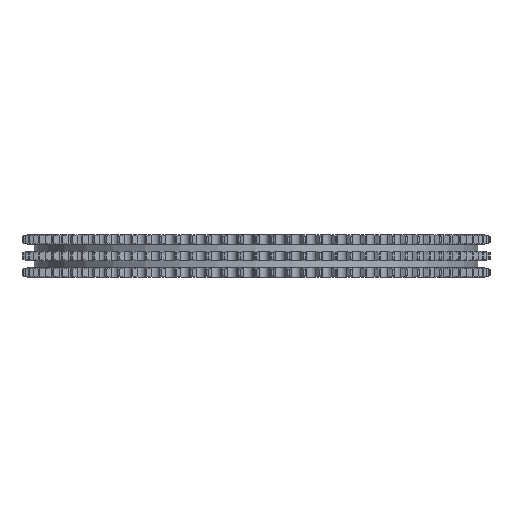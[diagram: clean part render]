
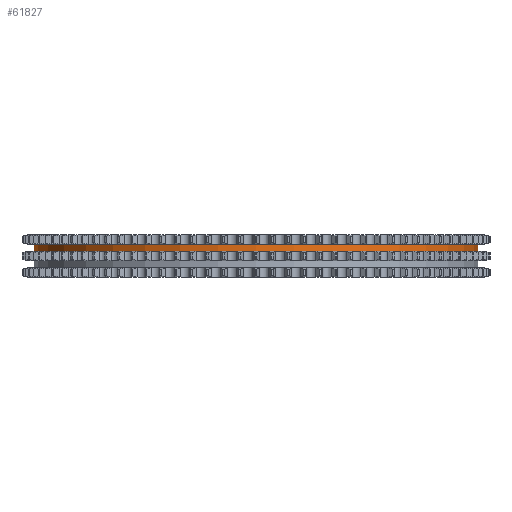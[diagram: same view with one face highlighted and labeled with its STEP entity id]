
A CAD part, left-side view. The second image highlights one B-rep face of the part: STEP entity #61827.
In plain terms, the highlighted cylindrical face has radius 261.927 mm (diameter 523.853 mm), a partial arc.
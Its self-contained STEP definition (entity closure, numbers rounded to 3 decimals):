
#10913=DIRECTION('',(0.,0.,-1.));
#10914=VECTOR('',#10913,8.25);
#10915=CARTESIAN_POINT('',(0.,261.927,13.8));
#10916=LINE('',#10915,#10914);
#10920=CARTESIAN_POINT('',(0.,0.,13.8));
#10921=DIRECTION('',(0.,0.,1.));
#10922=DIRECTION('',(0.,1.,0.));
#10923=AXIS2_PLACEMENT_3D('',#10920,#10921,#10922);
#10928=DIRECTION('',(0.,0.,-1.));
#10929=VECTOR('',#10928,8.25);
#10930=CARTESIAN_POINT('',(0.,-261.927,13.8));
#10931=LINE('',#10930,#10929);
#10935=CARTESIAN_POINT('',(0.,0.,5.55));
#10936=DIRECTION('',(0.,0.,1.));
#10937=DIRECTION('',(0.,1.,0.));
#10938=AXIS2_PLACEMENT_3D('',#10935,#10936,#10937);
#50402=CARTESIAN_POINT('',(0.,261.927,13.8));
#50403=CARTESIAN_POINT('',(0.,261.927,5.55));
#50404=VERTEX_POINT('',#50402);
#50405=VERTEX_POINT('',#50403);
#50406=CARTESIAN_POINT('',(0.,-261.927,13.8));
#50407=CARTESIAN_POINT('',(0.,-261.927,5.55));
#50408=VERTEX_POINT('',#50406);
#50409=VERTEX_POINT('',#50407);
#61815=CARTESIAN_POINT('',(0.,0.,15.18));
#61816=DIRECTION('',(0.,0.,-1.));
#61817=DIRECTION('',(0.,-1.,0.));
#61818=AXIS2_PLACEMENT_3D('',#61815,#61816,#61817);
#61819=CYLINDRICAL_SURFACE('',#61818,261.927);
#61820=ORIENTED_EDGE('',*,*,#61805,.F.);
#61821=ORIENTED_EDGE('',*,*,#61795,.T.);
#61822=ORIENTED_EDGE('',*,*,#61809,.T.);
#61824=ORIENTED_EDGE('',*,*,#61823,.F.);
#61825=EDGE_LOOP('',(#61820,#61821,#61822,#61824));
#61826=FACE_OUTER_BOUND('',#61825,.F.);
#61827=ADVANCED_FACE('',(#61826),#61819,.T.);
#10924=CIRCLE('',#10923,261.927);
#10939=CIRCLE('',#10938,261.927);
#61795=EDGE_CURVE('',#50404,#50408,#10924,.T.);
#61805=EDGE_CURVE('',#50404,#50405,#10916,.T.);
#61809=EDGE_CURVE('',#50408,#50409,#10931,.T.);
#61823=EDGE_CURVE('',#50405,#50409,#10939,.T.);
